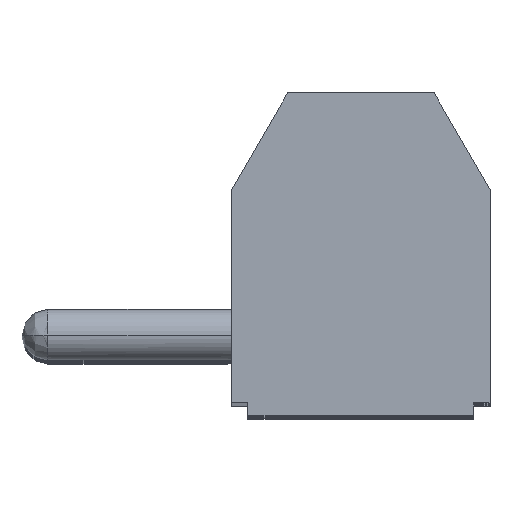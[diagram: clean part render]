
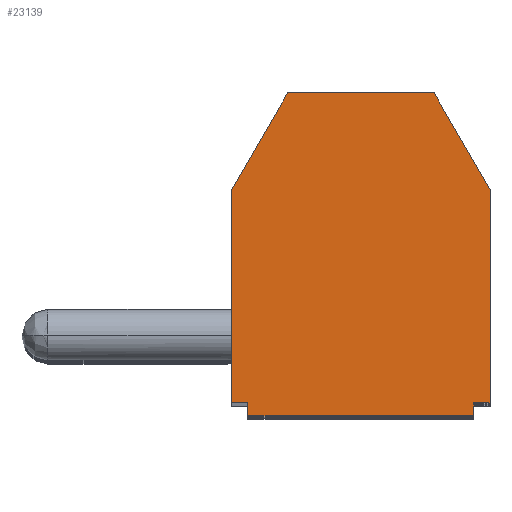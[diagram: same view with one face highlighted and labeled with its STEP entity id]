
A CAD part, top view. The second image highlights one B-rep face of the part: STEP entity #23139.
In plain terms, the highlighted planar face has unit normal (0, 0, 1).
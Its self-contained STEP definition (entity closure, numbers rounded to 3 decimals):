
#6666 = DIRECTION ( 'NONE',  ( 0., -1., 0. ) ) ;
#6667 = VECTOR ( 'NONE', #6666, 1000. ) ;
#6668 = CARTESIAN_POINT ( 'NONE',  ( -3.062, -3.045, 0. ) ) ;
#6669 = LINE ( 'NONE', #6668, #6667 ) ;
#6760 = CARTESIAN_POINT ( 'NONE',  ( -3.062, -3.245, 0. ) ) ;
#6761 = CARTESIAN_POINT ( 'NONE',  ( -3.062, -2.845, 0. ) ) ;
#7479 = DIRECTION ( 'NONE',  ( 1., 0., 0. ) ) ;
#7480 = VECTOR ( 'NONE', #7479, 1000. ) ;
#7481 = CARTESIAN_POINT ( 'NONE',  ( 0.438, -3.245, 0. ) ) ;
#7482 = LINE ( 'NONE', #7481, #7480 ) ;
#7483 = CARTESIAN_POINT ( 'NONE',  ( 3.938, -3.245, 0. ) ) ;
#7534 = CARTESIAN_POINT ( 'NONE',  ( 4.438, -2.845, 0. ) ) ;
#7535 = DIRECTION ( 'NONE',  ( 0., 1., 0. ) ) ;
#7536 = VECTOR ( 'NONE', #7535, 1000. ) ;
#7537 = CARTESIAN_POINT ( 'NONE',  ( 4.438, 1.755, 0. ) ) ;
#7538 = LINE ( 'NONE', #7537, #7536 ) ;
#7539 = CARTESIAN_POINT ( 'NONE',  ( 4.438, 3.755, 0. ) ) ;
#7563 = LINE ( 'NONE', #7625, #7624 ) ;
#7570 = DIRECTION ( 'NONE',  ( 0., 1., 0. ) ) ;
#7571 = VECTOR ( 'NONE', #7570, 1000. ) ;
#7572 = CARTESIAN_POINT ( 'NONE',  ( 3.938, 1.755, 0. ) ) ;
#7573 = LINE ( 'NONE', #7572, #7571 ) ;
#7574 = CARTESIAN_POINT ( 'NONE',  ( 3.938, -2.845, 0. ) ) ;
#7623 = DIRECTION ( 'NONE',  ( 1., 0., 0. ) ) ;
#7624 = VECTOR ( 'NONE', #7623, 1000. ) ;
#7625 = CARTESIAN_POINT ( 'NONE',  ( 0.438, -2.845, 0. ) ) ;
#7626 = CARTESIAN_POINT ( 'NONE',  ( 2.706, 6.755, 0. ) ) ;
#7659 = CARTESIAN_POINT ( 'NONE',  ( -3.562, 6.755, 0. ) ) ;
#7660 = LINE ( 'NONE', #7659, #7730 ) ;
#7662 = CARTESIAN_POINT ( 'NONE',  ( -1.83, 6.755, 0. ) ) ;
#7690 = DIRECTION ( 'NONE',  ( -0.5, 0.866, 0. ) ) ;
#7691 = VECTOR ( 'NONE', #7690, 1000. ) ;
#7692 = CARTESIAN_POINT ( 'NONE',  ( 4.438, 3.755, 0. ) ) ;
#7693 = LINE ( 'NONE', #7692, #7691 ) ;
#7729 = DIRECTION ( 'NONE',  ( -1., 0., 0. ) ) ;
#7730 = VECTOR ( 'NONE', #7729, 1000. ) ;
#7800 = DIRECTION ( 'NONE',  ( -0.5, -0.866, 0. ) ) ;
#7801 = VECTOR ( 'NONE', #7800, 1000. ) ;
#7802 = CARTESIAN_POINT ( 'NONE',  ( -1.83, 6.755, 0. ) ) ;
#7803 = LINE ( 'NONE', #7802, #7801 ) ;
#7805 = CARTESIAN_POINT ( 'NONE',  ( -3.562, 3.755, 0. ) ) ;
#8602 = LINE ( 'NONE', #8661, #8660 ) ;
#8619 = CARTESIAN_POINT ( 'NONE',  ( -3.562, -2.845, 0. ) ) ;
#8620 = DIRECTION ( 'NONE',  ( 1., 0., 0. ) ) ;
#8621 = VECTOR ( 'NONE', #8620, 1000. ) ;
#8622 = CARTESIAN_POINT ( 'NONE',  ( -3.562, -2.845, 0. ) ) ;
#8623 = LINE ( 'NONE', #8622, #8621 ) ;
#8647 = DIRECTION ( 'NONE',  ( 1., 0., 0. ) ) ;
#8648 = DIRECTION ( 'NONE',  ( 0., 0., 1. ) ) ;
#8649 = CARTESIAN_POINT ( 'NONE',  ( -3.562, -3.245, 0. ) ) ;
#8650 = AXIS2_PLACEMENT_3D ( 'NONE', #8649, #8648, #8647 ) ;
#8651 = FACE_OUTER_BOUND ( 'NONE', #23140, .T. ) ;
#8657 = PLANE ( 'NONE',  #8650 ) ;
#8659 = DIRECTION ( 'NONE',  ( 0., 1., 0. ) ) ;
#8660 = VECTOR ( 'NONE', #8659, 1000. ) ;
#8661 = CARTESIAN_POINT ( 'NONE',  ( -3.562, 0.455, 0. ) ) ;
#21639 = EDGE_CURVE ( 'NONE', #21692, #21693, #6669, .T. ) ;
#21692 = VERTEX_POINT ( 'NONE', #6761 ) ;
#21693 = VERTEX_POINT ( 'NONE', #6760 ) ;
#22097 = VERTEX_POINT ( 'NONE', #7483 ) ;
#22099 = EDGE_CURVE ( 'NONE', #21693, #22097, #7482, .T. ) ;
#22144 = VERTEX_POINT ( 'NONE', #7539 ) ;
#22146 = EDGE_CURVE ( 'NONE', #22147, #22144, #7538, .T. ) ;
#22147 = VERTEX_POINT ( 'NONE', #7534 ) ;
#22164 = VERTEX_POINT ( 'NONE', #7574 ) ;
#22166 = EDGE_CURVE ( 'NONE', #22097, #22164, #7573, .T. ) ;
#22171 = EDGE_CURVE ( 'NONE', #22164, #22147, #7563, .T. ) ;
#22313 = VERTEX_POINT ( 'NONE', #7626 ) ;
#22316 = EDGE_CURVE ( 'NONE', #22144, #22313, #7693, .T. ) ;
#22423 = VERTEX_POINT ( 'NONE', #7662 ) ;
#22426 = EDGE_CURVE ( 'NONE', #22313, #22423, #7660, .T. ) ;
#22541 = VERTEX_POINT ( 'NONE', #7805 ) ;
#22544 = EDGE_CURVE ( 'NONE', #22423, #22541, #7803, .T. ) ;
#23097 = EDGE_CURVE ( 'NONE', #23098, #21692, #8623, .T. ) ;
#23098 = VERTEX_POINT ( 'NONE', #8619 ) ;
#23121 = ORIENTED_EDGE ( 'NONE', *, *, #21639, .T. ) ;
#23122 = ORIENTED_EDGE ( 'NONE', *, *, #22099, .T. ) ;
#23123 = ORIENTED_EDGE ( 'NONE', *, *, #22166, .T. ) ;
#23124 = ORIENTED_EDGE ( 'NONE', *, *, #22171, .T. ) ;
#23125 = ORIENTED_EDGE ( 'NONE', *, *, #22146, .T. ) ;
#23126 = ORIENTED_EDGE ( 'NONE', *, *, #22316, .T. ) ;
#23127 = ORIENTED_EDGE ( 'NONE', *, *, #22426, .T. ) ;
#23128 = ORIENTED_EDGE ( 'NONE', *, *, #22544, .T. ) ;
#23129 = ORIENTED_EDGE ( 'NONE', *, *, #23130, .F. ) ;
#23130 = EDGE_CURVE ( 'NONE', #23098, #22541, #8602, .T. ) ;
#23139 = ADVANCED_FACE ( 'NONE', ( #8651 ), #8657, .T. ) ;
#23140 = EDGE_LOOP ( 'NONE', ( #23141, #23121, #23122, #23123, #23124, #23125, #23126, #23127, #23128, #23129 ) ) ;
#23141 = ORIENTED_EDGE ( 'NONE', *, *, #23097, .T. ) ;
